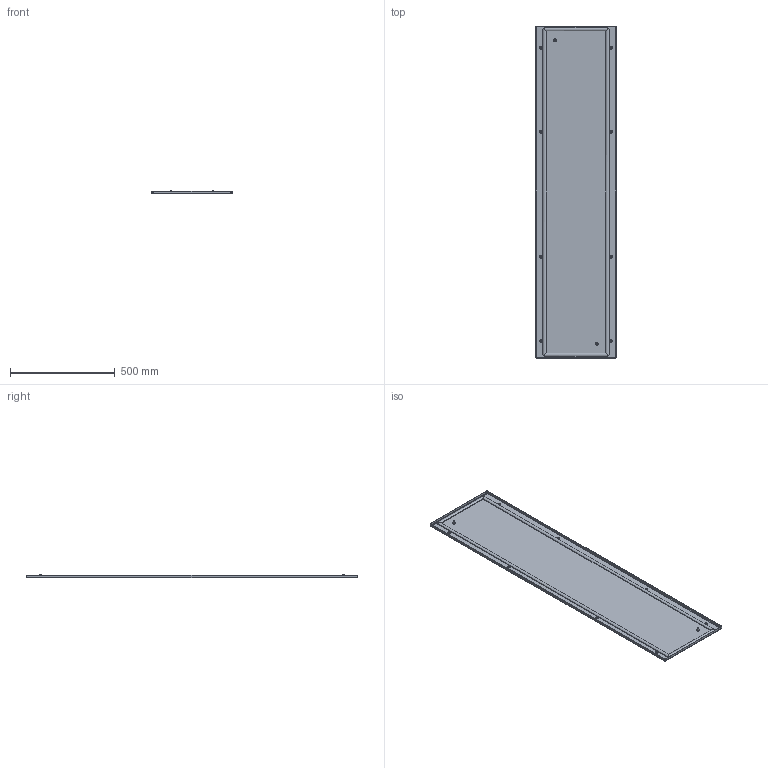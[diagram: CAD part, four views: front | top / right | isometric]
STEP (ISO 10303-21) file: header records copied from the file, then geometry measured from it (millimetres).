
FILE_DESCRIPTION(('STEP AP203'), '1');
FILE_NAME('Ïàíåëü çàäíÿÿ 1600õ400 ìì IP55 OptiBox M 419668 ÊÝÀÇ', '', ('UNSPECIFIED'), ('UNSPECIFIED'), 'C3D Converter', 'C3D Toolkit', '');
FILE_SCHEMA(('CONFIG_CONTROL_DESIGN'));
Length unit declared in the file: millimetre
Bounding box: 386 x 1586 x 18.9 mm (x, y, z)
Volume: 1265261.9 mm3; surface area: 1472020.7 mm2
Topology: 4 solids, 4 shells, 141 faces, 290 edges, 172 vertices
Faces by surface type: plane 79, cylinder 54, bspline 8
Full cylindrical faces by diameter (mm): 0.75 x2, 1 x2, 6.3 x8, 8 x2, 9.3 x2, 13 x2, 13.5 x8
Entity records: 5852 total; most frequent: CARTESIAN_POINT 1954, DIRECTION 572, ORIENTED_EDGE 528, EDGE_CURVE 264, AXIS2_PLACEMENT_3D 210, EDGE_LOOP 200, VERTEX_POINT 172, LINE 152
